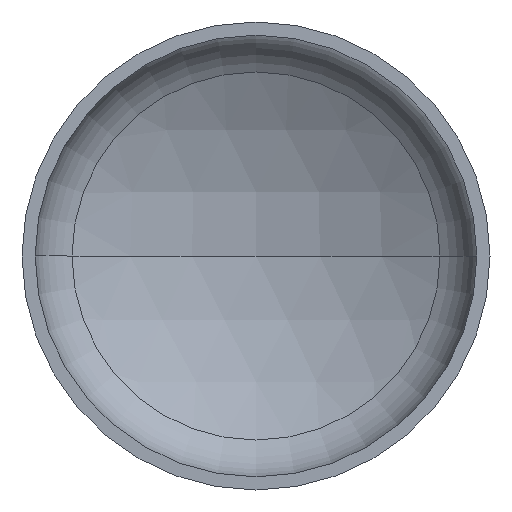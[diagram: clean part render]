
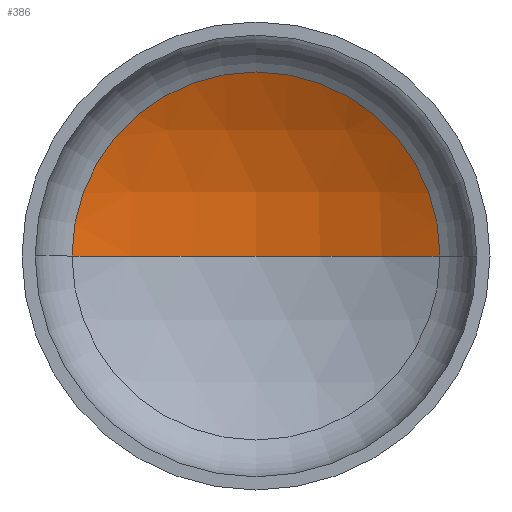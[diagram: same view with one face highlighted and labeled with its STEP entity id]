
A CAD part, front view. The second image highlights one B-rep face of the part: STEP entity #386.
In plain terms, the highlighted spherical face has radius 1760 mm.
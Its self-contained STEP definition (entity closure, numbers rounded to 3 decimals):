
#4 = CARTESIAN_POINT ( 'NONE',  ( 0., 416.089, 0. ) ) ;
#7 = VERTEX_POINT ( 'NONE', #292 ) ;
#14 = CARTESIAN_POINT ( 'NONE',  ( 0., -1116.607, 0. ) ) ;
#16 = EDGE_LOOP ( 'NONE', ( #80, #86, #34 ) ) ;
#34 = ORIENTED_EDGE ( 'NONE', *, *, #135, .T. ) ;
#39 = DIRECTION ( 'NONE',  ( 0., 0., 1. ) ) ;
#56 = AXIS2_PLACEMENT_3D ( 'NONE', #263, #39, #196 ) ;
#60 = AXIS2_PLACEMENT_3D ( 'NONE', #14, #284, #142 ) ;
#67 = AXIS2_PLACEMENT_3D ( 'NONE', #4, #376, #186 ) ;
#80 = ORIENTED_EDGE ( 'NONE', *, *, #140, .F. ) ;
#86 = ORIENTED_EDGE ( 'NONE', *, *, #137, .T. ) ;
#116 = VERTEX_POINT ( 'NONE', #323 ) ;
#132 = VERTEX_POINT ( 'NONE', #298 ) ;
#135 = EDGE_CURVE ( 'NONE', #132, #116, #305, .T. ) ;
#137 = EDGE_CURVE ( 'NONE', #7, #132, #247, .T. ) ;
#140 = EDGE_CURVE ( 'NONE', #7, #116, #182, .T. ) ;
#142 = DIRECTION ( 'NONE',  ( -1., 0., 0. ) ) ;
#156 = CARTESIAN_POINT ( 'NONE',  ( 0., -1116.607, 0. ) ) ;
#182 = CIRCLE ( 'NONE', #56, 1760. ) ;
#186 = DIRECTION ( 'NONE',  ( 1., 0., 0. ) ) ;
#196 = DIRECTION ( 'NONE',  ( 1., 0., 0. ) ) ;
#247 = CIRCLE ( 'NONE', #60, 1760. ) ;
#263 = CARTESIAN_POINT ( 'NONE',  ( 0., -1116.607, 0. ) ) ;
#284 = DIRECTION ( 'NONE',  ( 0., 0., -1. ) ) ;
#292 = CARTESIAN_POINT ( 'NONE',  ( 0., 643.393, 0. ) ) ;
#298 = CARTESIAN_POINT ( 'NONE',  ( 865.127, 416.089, 0. ) ) ;
#305 = CIRCLE ( 'NONE', #67, 865.127 ) ;
#314 = DIRECTION ( 'NONE',  ( 0., 0., -1. ) ) ;
#323 = CARTESIAN_POINT ( 'NONE',  ( -865.127, 416.089, 0. ) ) ;
#326 = FACE_OUTER_BOUND ( 'NONE', #16, .T. ) ;
#376 = DIRECTION ( 'NONE',  ( 0., -1., 0. ) ) ;
#383 = SPHERICAL_SURFACE ( 'NONE', #411, 1760. ) ;
#386 = ADVANCED_FACE ( 'NONE', ( #326 ), #383, .F. ) ;
#408 = DIRECTION ( 'NONE',  ( -1., 0., 0. ) ) ;
#411 = AXIS2_PLACEMENT_3D ( 'NONE', #156, #314, #408 ) ;
